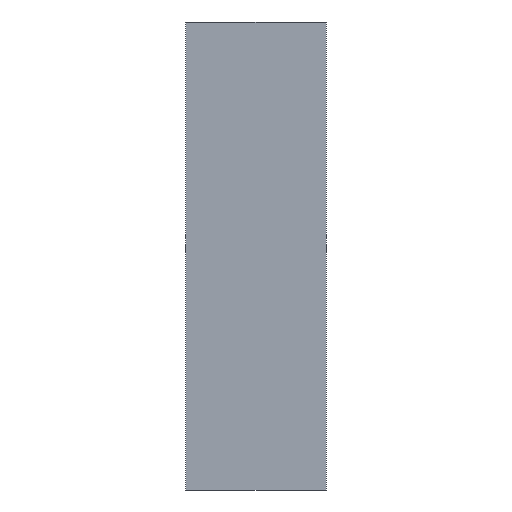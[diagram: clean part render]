
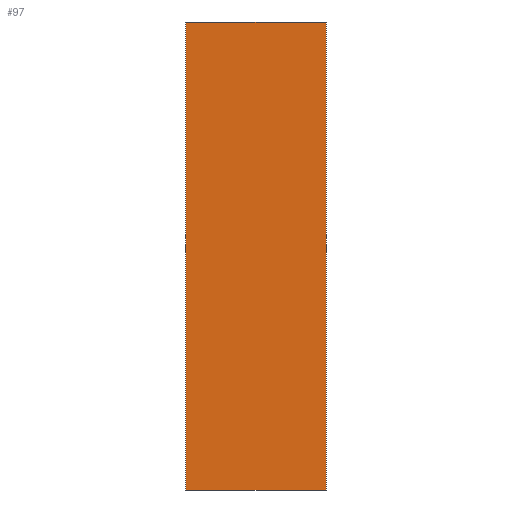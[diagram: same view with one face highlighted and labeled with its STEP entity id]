
A CAD part, front view. The second image highlights one B-rep face of the part: STEP entity #97.
In plain terms, the highlighted planar face has unit normal (0, -1, 0).
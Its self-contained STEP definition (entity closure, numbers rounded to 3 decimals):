
#21 = EDGE_CURVE('',#22,#24,#26,.T.);
#22 = VERTEX_POINT('',#23);
#23 = CARTESIAN_POINT('',(63.,-144.,16.));
#24 = VERTEX_POINT('',#25);
#25 = CARTESIAN_POINT('',(63.,-144.,26.));
#26 = LINE('',#27,#28);
#27 = CARTESIAN_POINT('',(63.,-144.,16.));
#28 = VECTOR('',#29,1.);
#29 = DIRECTION('',(0.,0.,1.));
#61 = EDGE_CURVE('',#62,#64,#66,.T.);
#62 = VERTEX_POINT('',#63);
#63 = CARTESIAN_POINT('',(66.,-144.,16.));
#64 = VERTEX_POINT('',#65);
#65 = CARTESIAN_POINT('',(66.,-144.,26.));
#66 = LINE('',#67,#68);
#67 = CARTESIAN_POINT('',(66.,-144.,16.));
#68 = VECTOR('',#69,1.);
#69 = DIRECTION('',(0.,0.,1.));
#97 = ADVANCED_FACE('',(#98),#114,.F.);
#98 = FACE_BOUND('',#99,.F.);
#99 = EDGE_LOOP('',(#100,#106,#107,#113));
#100 = ORIENTED_EDGE('',*,*,#101,.F.);
#101 = EDGE_CURVE('',#22,#62,#102,.T.);
#102 = LINE('',#103,#104);
#103 = CARTESIAN_POINT('',(63.,-144.,16.));
#104 = VECTOR('',#105,1.);
#105 = DIRECTION('',(1.,0.,0.));
#106 = ORIENTED_EDGE('',*,*,#21,.T.);
#107 = ORIENTED_EDGE('',*,*,#108,.T.);
#108 = EDGE_CURVE('',#24,#64,#109,.T.);
#109 = LINE('',#110,#111);
#110 = CARTESIAN_POINT('',(63.,-144.,26.));
#111 = VECTOR('',#112,1.);
#112 = DIRECTION('',(1.,0.,0.));
#113 = ORIENTED_EDGE('',*,*,#61,.F.);
#114 = PLANE('',#115);
#115 = AXIS2_PLACEMENT_3D('',#116,#117,#118);
#116 = CARTESIAN_POINT('',(63.,-144.,16.));
#117 = DIRECTION('',(0.,1.,0.));
#118 = DIRECTION('',(0.,0.,1.));
